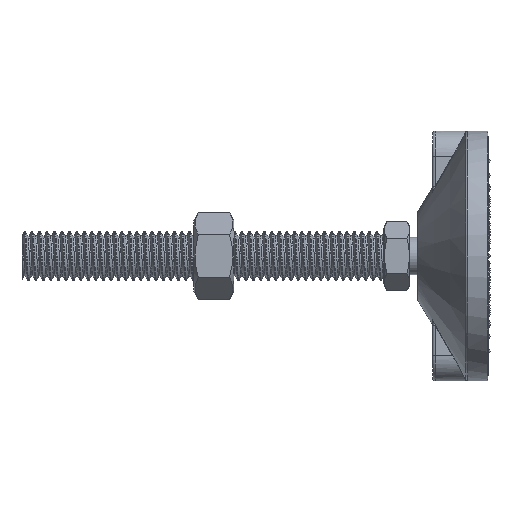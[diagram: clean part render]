
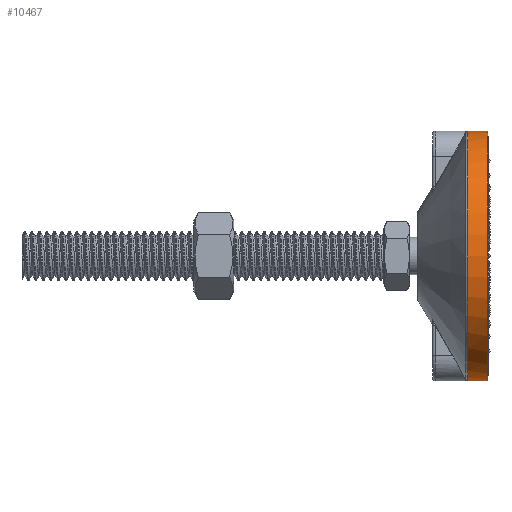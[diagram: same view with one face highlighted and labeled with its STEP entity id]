
A CAD part, left-side view. The second image highlights one B-rep face of the part: STEP entity #10467.
In plain terms, the highlighted cylindrical face has radius 50 mm (diameter 100 mm), a partial arc.
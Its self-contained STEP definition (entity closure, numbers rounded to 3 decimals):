
#384 = EDGE_CURVE ( 'NONE', #13358, #3664, #22644, .T. ) ;
#1402 = VERTEX_POINT ( 'NONE', #9016 ) ;
#1676 = AXIS2_PLACEMENT_3D ( 'NONE', #49067, #20839, #26014 ) ;
#2326 = FACE_OUTER_BOUND ( 'NONE', #17934, .T. ) ;
#3090 = LINE ( 'NONE', #40118, #22731 ) ;
#3146 = CARTESIAN_POINT ( 'NONE',  ( -3.883, 7.934, 49.849 ) ) ;
#3230 = CYLINDRICAL_SURFACE ( 'NONE', #1676, 50. ) ;
#3664 = VERTEX_POINT ( 'NONE', #24888 ) ;
#4358 = CARTESIAN_POINT ( 'NONE',  ( 0., 7.934, 0. ) ) ;
#5812 = CARTESIAN_POINT ( 'NONE',  ( 0., 0., 50. ) ) ;
#5818 = CARTESIAN_POINT ( 'NONE',  ( -0.999, 8.318, 49.992 ) ) ;
#7052 = DIRECTION ( 'NONE',  ( 0., -1., 0. ) ) ;
#8273 = DIRECTION ( 'NONE',  ( 0., -1., 0. ) ) ;
#9016 = CARTESIAN_POINT ( 'NONE',  ( -1.495, 8.21, 49.978 ) ) ;
#9201 = AXIS2_PLACEMENT_3D ( 'NONE', #41409, #51113, #16892 ) ;
#9926 = CARTESIAN_POINT ( 'NONE',  ( -3.883, 7.934, -49.849 ) ) ;
#10076 = B_SPLINE_CURVE_WITH_KNOTS ( 'NONE', 3,
 ( #10104, #57115, #29523, #47432 ),
 .UNSPECIFIED., .F., .F.,
 ( 4, 4 ),
 ( 0., 0.002 ),
 .UNSPECIFIED. ) ;
#10104 = CARTESIAN_POINT ( 'NONE',  ( -3.883, 7.934, -49.849 ) ) ;
#10467 = ADVANCED_FACE ( 'NONE', ( #2326 ), #3230, .T. ) ;
#12084 = EDGE_CURVE ( 'NONE', #3664, #37476, #3090, .T. ) ;
#12881 = VERTEX_POINT ( 'NONE', #58470 ) ;
#12888 = EDGE_CURVE ( 'NONE', #38707, #37476, #34407, .T. ) ;
#13358 = VERTEX_POINT ( 'NONE', #54301 ) ;
#15412 = B_SPLINE_CURVE_WITH_KNOTS ( 'NONE', 3,
 ( #56207, #32860, #5818, #59873 ),
 .UNSPECIFIED., .F., .F.,
 ( 4, 4 ),
 ( 0., 0.002 ),
 .UNSPECIFIED. ) ;
#16892 = DIRECTION ( 'NONE',  ( 0., 0., -1. ) ) ;
#17934 = EDGE_LOOP ( 'NONE', ( #54261, #33047, #59437, #20212, #29446, #45578, #53002, #25187 ) ) ;
#20212 = ORIENTED_EDGE ( 'NONE', *, *, #33031, .T. ) ;
#20839 = DIRECTION ( 'NONE',  ( 0., -1., 0. ) ) ;
#22578 = DIRECTION ( 'NONE',  ( 0., -1., 0. ) ) ;
#22644 = B_SPLINE_CURVE_WITH_KNOTS ( 'NONE', 3,
 ( #25282, #35279, #48940, #34370 ),
 .UNSPECIFIED., .F., .F.,
 ( 4, 4 ),
 ( 0., 0.002 ),
 .UNSPECIFIED. ) ;
#22710 = VERTEX_POINT ( 'NONE', #9926 ) ;
#22731 = VECTOR ( 'NONE', #7052, 1000. ) ;
#24080 = AXIS2_PLACEMENT_3D ( 'NONE', #4358, #22578, #46245 ) ;
#24888 = CARTESIAN_POINT ( 'NONE',  ( 0., 8.5, -50. ) ) ;
#25187 = ORIENTED_EDGE ( 'NONE', *, *, #12888, .F. ) ;
#25282 = CARTESIAN_POINT ( 'NONE',  ( -1.495, 8.21, -49.978 ) ) ;
#26014 = DIRECTION ( 'NONE',  ( 0., 0., -1. ) ) ;
#29446 = ORIENTED_EDGE ( 'NONE', *, *, #56813, .T. ) ;
#29523 = CARTESIAN_POINT ( 'NONE',  ( -2.282, 8.038, -49.954 ) ) ;
#32860 = CARTESIAN_POINT ( 'NONE',  ( -0.499, 8.408, 50. ) ) ;
#33031 = EDGE_CURVE ( 'NONE', #48154, #22710, #46402, .T. ) ;
#33047 = ORIENTED_EDGE ( 'NONE', *, *, #44822, .T. ) ;
#34370 = CARTESIAN_POINT ( 'NONE',  ( 0., 8.5, -50. ) ) ;
#34407 = CIRCLE ( 'NONE', #9201, 50. ) ;
#34749 = B_SPLINE_CURVE_WITH_KNOTS ( 'NONE', 3,
 ( #59889, #40774, #55345, #41689 ),
 .UNSPECIFIED., .F., .F.,
 ( 4, 4 ),
 ( 0., 0.002 ),
 .UNSPECIFIED. ) ;
#35279 = CARTESIAN_POINT ( 'NONE',  ( -0.999, 8.318, -49.992 ) ) ;
#35900 = CARTESIAN_POINT ( 'NONE',  ( 0., 0., 50. ) ) ;
#36658 = EDGE_CURVE ( 'NONE', #12881, #38707, #58949, .T. ) ;
#36824 = VECTOR ( 'NONE', #8273, 1000. ) ;
#37476 = VERTEX_POINT ( 'NONE', #56771 ) ;
#38707 = VERTEX_POINT ( 'NONE', #5812 ) ;
#40118 = CARTESIAN_POINT ( 'NONE',  ( 0., 0., -50. ) ) ;
#40774 = CARTESIAN_POINT ( 'NONE',  ( -2.282, 8.038, 49.954 ) ) ;
#41409 = CARTESIAN_POINT ( 'NONE',  ( 0., 0., 0. ) ) ;
#41689 = CARTESIAN_POINT ( 'NONE',  ( -3.883, 7.934, 49.849 ) ) ;
#44822 = EDGE_CURVE ( 'NONE', #12881, #1402, #15412, .T. ) ;
#45578 = ORIENTED_EDGE ( 'NONE', *, *, #384, .T. ) ;
#46245 = DIRECTION ( 'NONE',  ( 0., 0., 1. ) ) ;
#46402 = CIRCLE ( 'NONE', #24080, 50. ) ;
#47207 = EDGE_CURVE ( 'NONE', #1402, #48154, #34749, .T. ) ;
#47432 = CARTESIAN_POINT ( 'NONE',  ( -1.495, 8.21, -49.978 ) ) ;
#48154 = VERTEX_POINT ( 'NONE', #3146 ) ;
#48940 = CARTESIAN_POINT ( 'NONE',  ( -0.499, 8.408, -50. ) ) ;
#49067 = CARTESIAN_POINT ( 'NONE',  ( 0., 0., 0. ) ) ;
#51113 = DIRECTION ( 'NONE',  ( 0., -1., 0. ) ) ;
#53002 = ORIENTED_EDGE ( 'NONE', *, *, #12084, .T. ) ;
#54261 = ORIENTED_EDGE ( 'NONE', *, *, #36658, .F. ) ;
#54301 = CARTESIAN_POINT ( 'NONE',  ( -1.495, 8.21, -49.978 ) ) ;
#55345 = CARTESIAN_POINT ( 'NONE',  ( -3.077, 7.934, 49.912 ) ) ;
#56207 = CARTESIAN_POINT ( 'NONE',  ( 0., 8.5, 50. ) ) ;
#56771 = CARTESIAN_POINT ( 'NONE',  ( 0., 0., -50. ) ) ;
#56813 = EDGE_CURVE ( 'NONE', #22710, #13358, #10076, .T. ) ;
#57115 = CARTESIAN_POINT ( 'NONE',  ( -3.077, 7.934, -49.912 ) ) ;
#58470 = CARTESIAN_POINT ( 'NONE',  ( 0., 8.5, 50. ) ) ;
#58949 = LINE ( 'NONE', #35900, #36824 ) ;
#59437 = ORIENTED_EDGE ( 'NONE', *, *, #47207, .T. ) ;
#59873 = CARTESIAN_POINT ( 'NONE',  ( -1.495, 8.21, 49.978 ) ) ;
#59889 = CARTESIAN_POINT ( 'NONE',  ( -1.495, 8.21, 49.978 ) ) ;
